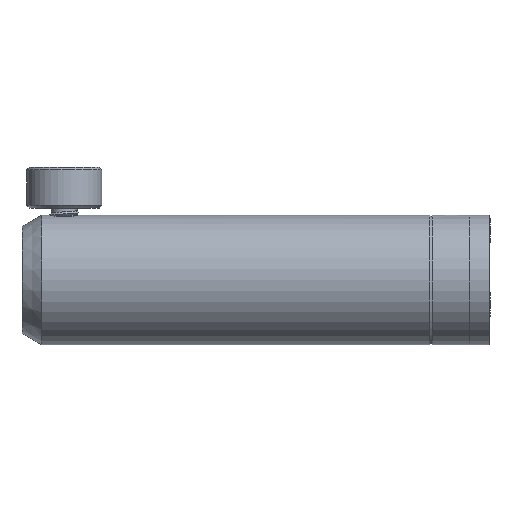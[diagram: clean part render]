
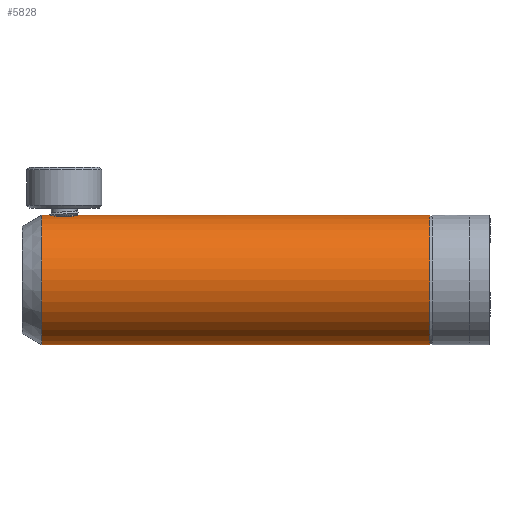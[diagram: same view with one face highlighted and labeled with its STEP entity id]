
A CAD part, left-side view. The second image highlights one B-rep face of the part: STEP entity #5828.
In plain terms, the highlighted cylindrical face has radius 12.497 mm (diameter 24.994 mm), a partial arc.
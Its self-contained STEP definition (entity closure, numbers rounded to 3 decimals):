
#3859=DIRECTION('',(0.,1.,0.));
#3860=VECTOR('',#3859,67.402);
#3861=CARTESIAN_POINT('',(-28.909,-52.492,
23.27));
#3862=LINE('',#3861,#3860);
#3863=CARTESIAN_POINT('',(-28.909,14.91,23.27));
#3895=DIRECTION('',(0.,-1.,0.));
#3896=VECTOR('',#3895,74.72);
#3897=CARTESIAN_POINT('',(-28.909,22.228,
-1.723));
#3898=LINE('',#3897,#3896);
#3907=CARTESIAN_POINT('',(-28.909,-52.492,
10.773));
#3908=DIRECTION('',(0.,1.,0.));
#3909=DIRECTION('',(0.,0.,-1.));
#3910=AXIS2_PLACEMENT_3D('',#3907,#3908,#3909);
#3912=DIRECTION('',(0.,-1.,0.));
#3913=VECTOR('',#3912,1.318);
#3914=CARTESIAN_POINT('',(-28.909,22.228,23.27));
#3915=LINE('',#3914,#3913);
#3916=CARTESIAN_POINT('',(-28.909,20.91,23.27));
#3917=CARTESIAN_POINT('',(-29.104,20.91,23.27));
#3918=CARTESIAN_POINT('',(-29.489,20.872,23.261));
#3919=CARTESIAN_POINT('',(-30.059,20.701,23.221));
#3920=CARTESIAN_POINT('',(-30.583,20.422,23.161));
#3921=CARTESIAN_POINT('',(-31.046,20.042,23.089));
#3922=CARTESIAN_POINT('',(-31.422,19.583,23.016));
#3923=CARTESIAN_POINT('',(-31.702,19.056,22.955));
#3924=CARTESIAN_POINT('',(-31.871,18.489,22.914));
#3925=CARTESIAN_POINT('',(-31.909,18.105,22.905));
#3926=CARTESIAN_POINT('',(-31.909,17.91,22.905));
#3928=CARTESIAN_POINT('',(-31.909,17.91,22.905));
#3929=CARTESIAN_POINT('',(-31.909,17.714,22.905));
#3930=CARTESIAN_POINT('',(-31.871,17.33,22.914));
#3931=CARTESIAN_POINT('',(-31.702,16.762,22.955));
#3932=CARTESIAN_POINT('',(-31.422,16.236,23.016));
#3933=CARTESIAN_POINT('',(-31.046,15.777,23.089));
#3934=CARTESIAN_POINT('',(-30.583,15.397,23.161));
#3935=CARTESIAN_POINT('',(-30.06,15.118,23.221));
#3936=CARTESIAN_POINT('',(-29.489,14.947,23.261));
#3937=CARTESIAN_POINT('',(-29.104,14.91,23.27));
#3938=CARTESIAN_POINT('',(-28.909,14.91,23.27));
#3944=CARTESIAN_POINT('',(-28.909,22.228,10.773));
#3945=DIRECTION('',(0.,1.,0.));
#3946=DIRECTION('',(0.,0.,-1.));
#3947=AXIS2_PLACEMENT_3D('',#3944,#3945,#3946);
#5630=CARTESIAN_POINT('',(-28.909,22.228,23.27));
#5631=VERTEX_POINT('',#5630);
#5632=CARTESIAN_POINT('',(-28.909,22.228,
-1.723));
#5633=VERTEX_POINT('',#5632);
#5646=VERTEX_POINT('',#3863);
#5648=VERTEX_POINT('',#3916);
#5649=VERTEX_POINT('',#3926);
#5743=CARTESIAN_POINT('',(-28.909,-52.492,
23.27));
#5744=CARTESIAN_POINT('',(-28.909,-52.492,
-1.723));
#5745=VERTEX_POINT('',#5743);
#5746=VERTEX_POINT('',#5744);
#5811=CARTESIAN_POINT('',(-28.909,26.038,10.773));
#5812=DIRECTION('',(0.,-1.,0.));
#5813=DIRECTION('',(0.,0.,-1.));
#5814=AXIS2_PLACEMENT_3D('',#5811,#5812,#5813);
#5815=CYLINDRICAL_SURFACE('',#5814,12.497);
#5816=ORIENTED_EDGE('',*,*,#5802,.F.);
#5817=ORIENTED_EDGE('',*,*,#5777,.F.);
#5819=ORIENTED_EDGE('',*,*,#5818,.T.);
#5820=ORIENTED_EDGE('',*,*,#5773,.T.);
#5822=ORIENTED_EDGE('',*,*,#5821,.T.);
#5824=ORIENTED_EDGE('',*,*,#5823,.T.);
#5825=ORIENTED_EDGE('',*,*,#5767,.F.);
#5826=EDGE_LOOP('',(#5816,#5817,#5819,#5820,#5822,#5824,#5825));
#5827=FACE_OUTER_BOUND('',#5826,.F.);
#5828=ADVANCED_FACE('',(#5827),#5815,.T.);
#3911=CIRCLE('',#3910,12.497);
#3927=B_SPLINE_CURVE_WITH_KNOTS('',3,(#3916,#3917,#3918,#3919,#3920,#3921,#3922,
#3923,#3924,#3925,#3926),.UNSPECIFIED.,.F.,.F.,(4,1,1,1,1,1,1,1,4),(0.,
0.125,0.25,0.375,0.5,0.625,0.75,0.875,1.),.UNSPECIFIED.);
#3939=B_SPLINE_CURVE_WITH_KNOTS('',3,(#3928,#3929,#3930,#3931,#3932,#3933,#3934,
#3935,#3936,#3937,#3938),.UNSPECIFIED.,.F.,.F.,(4,1,1,1,1,1,1,1,4),(0.,
0.125,0.25,0.375,0.5,0.625,0.75,0.875,1.),.UNSPECIFIED.);
#3948=CIRCLE('',#3947,12.497);
#5767=EDGE_CURVE('',#5745,#5646,#3862,.T.);
#5773=EDGE_CURVE('',#5631,#5648,#3915,.T.);
#5777=EDGE_CURVE('',#5633,#5746,#3898,.T.);
#5802=EDGE_CURVE('',#5746,#5745,#3911,.T.);
#5818=EDGE_CURVE('',#5633,#5631,#3948,.T.);
#5821=EDGE_CURVE('',#5648,#5649,#3927,.T.);
#5823=EDGE_CURVE('',#5649,#5646,#3939,.T.);
